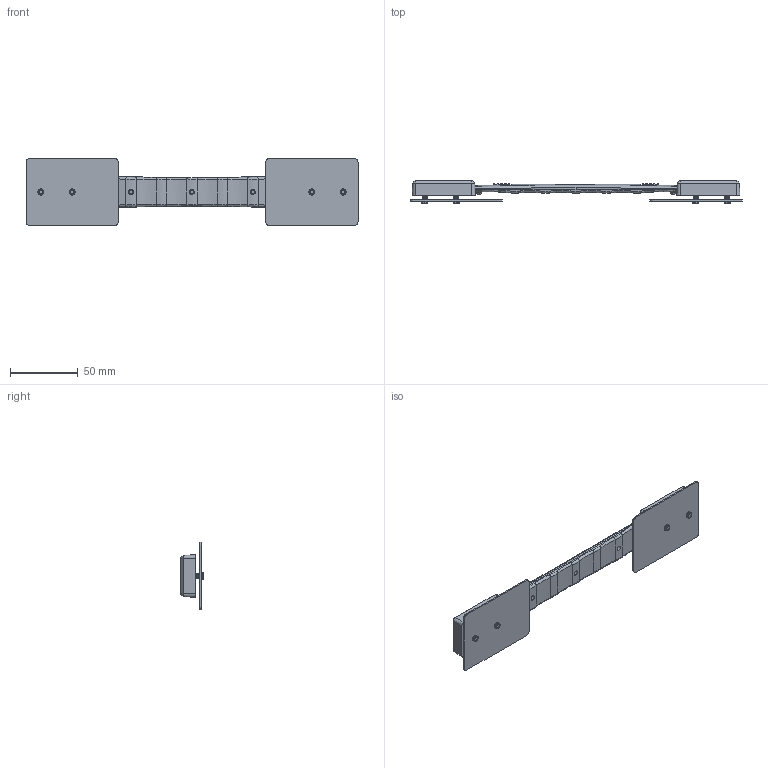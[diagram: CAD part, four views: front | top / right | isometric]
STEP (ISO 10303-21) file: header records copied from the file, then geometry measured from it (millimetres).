
FILE_DESCRIPTION (( 'STEP AP203' ), '1' );
FILE_NAME ('A-104-0-0.STEP', '2025-11-06T11:44:08', ( '' ), ( '' ), 'SwSTEP 2.0', 'SolidWorks 2021', '' );
FILE_SCHEMA (( 'CONFIG_CONTROL_DESIGN' ));
Length unit declared in the file: millimetre
Products named in the file (7): A-104-P-5; A-104-0-0; A-104-P-3; A-654-0-0-M-0-11423; A-104-P-4; A-104-P-1; A-104-P-2
Assembly tree (12 placements, depth 2):
  A-104-0-0
    A-104-P-4
    A-104-P-1  x2
    A-104-P-5  x2
    A-104-P-2  x2
    A-104-P-3
    A-654-0-0-M-0-11423  x4
Bounding box: 245 x 16.6 x 50 mm (x, y, z)
Volume: 44804 mm3; surface area: 51502.9 mm2
Topology: 12 solids, 12 shells, 878 faces, 2193 edges, 1373 vertices
Faces by surface type: cylinder 327, plane 287, bspline 130, cone 106, torus 28
Entity records: 22287 total; most frequent: CARTESIAN_POINT 9968, ORIENTED_EDGE 2596, DIRECTION 2092, EDGE_CURVE 1298, VERTEX_POINT 799, AXIS2_PLACEMENT_3D 771, EDGE_LOOP 583, LINE 550
